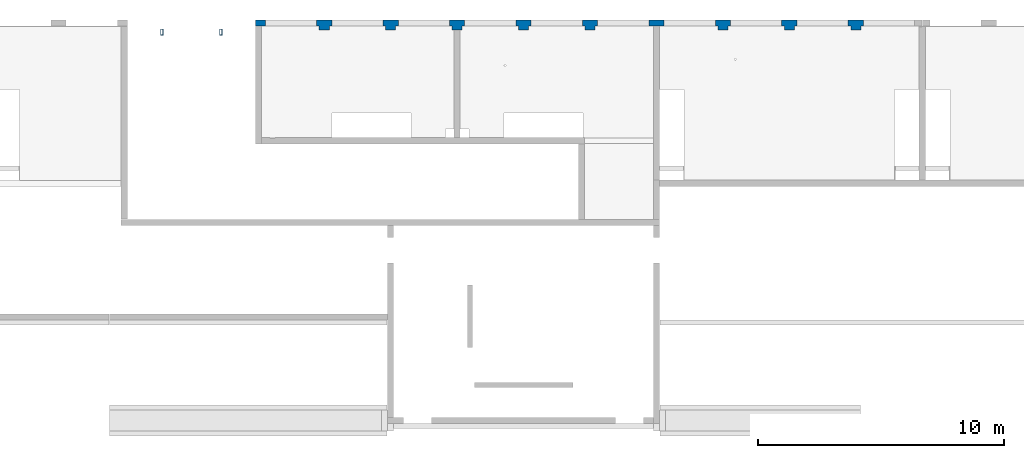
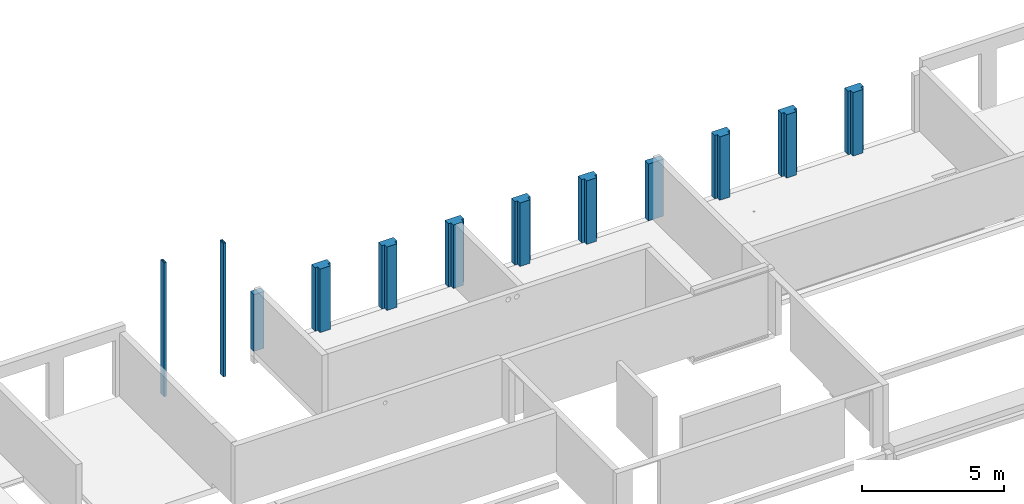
# One storey, part 1 of 18: 12 columns.
"""IFC2X3 building model written with IfcOpenShell, lengths in millimetres."""

from ifc_helpers import new_model, entity, si_unit, converted_unit, derived_unit, direction, frame, frame_2d, origin, origin_2d_with_axis, place, context, subcontext, project, spatial, polyline, circle_curve, parameter, trimmed, segment, composite_curve, rectangle, outline, extrude, source, transform, mapped, material, type_object, type_shapes, element, save


model = new_model("IFC2X3")

# Units and contexts
model_context = context("Model", 3, precision=0.01, world=origin(), true_north=direction((6.12303176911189e-17, 1.0)))
body_context = subcontext(model_context, "Body", "Model", "MODEL_VIEW")
ifc_project = project(units=[si_unit("LENGTHUNIT", "METRE", prefix="MILLI"), si_unit("AREAUNIT", "SQUARE_METRE"), si_unit("VOLUMEUNIT", "CUBIC_METRE"), converted_unit("PLANEANGLEUNIT", "DEGREE", entity("IfcRatioMeasure", 0.0174532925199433), si_unit("PLANEANGLEUNIT", "RADIAN"), dimensions=[0, 0, 0, 0, 0, 0, 0]), si_unit("MASSUNIT", "GRAM", prefix="KILO"), derived_unit("MASSDENSITYUNIT", [(si_unit("MASSUNIT", "GRAM", prefix="KILO"), 1), (si_unit("LENGTHUNIT", "METRE"), -3)]), si_unit("TIMEUNIT", "SECOND"), si_unit("FREQUENCYUNIT", "HERTZ"), si_unit("THERMODYNAMICTEMPERATUREUNIT", "DEGREE_CELSIUS"), derived_unit("THERMALTRANSMITTANCEUNIT", [(si_unit("MASSUNIT", "GRAM", prefix="KILO"), 1), (si_unit("THERMODYNAMICTEMPERATUREUNIT", "KELVIN"), -1), (si_unit("TIMEUNIT", "SECOND"), -3)]), derived_unit("VOLUMETRICFLOWRATEUNIT", [(si_unit("LENGTHUNIT", "METRE"), 3), (si_unit("TIMEUNIT", "SECOND"), -1)]), si_unit("ELECTRICCURRENTUNIT", "AMPERE"), si_unit("ELECTRICVOLTAGEUNIT", "VOLT"), si_unit("POWERUNIT", "WATT"), si_unit("FORCEUNIT", "NEWTON", prefix="KILO"), si_unit("ILLUMINANCEUNIT", "LUX"), si_unit("LUMINOUSFLUXUNIT", "LUMEN"), si_unit("LUMINOUSINTENSITYUNIT", "CANDELA"), derived_unit("USERDEFINED", [(si_unit("MASSUNIT", "GRAM", prefix="KILO"), -1), (si_unit("LENGTHUNIT", "METRE"), -2), (si_unit("TIMEUNIT", "SECOND"), 3), (si_unit("LUMINOUSFLUXUNIT", "LUMEN"), 1)]), derived_unit("LINEARVELOCITYUNIT", [(si_unit("LENGTHUNIT", "METRE"), 1), (si_unit("TIMEUNIT", "SECOND"), -1)]), si_unit("PRESSUREUNIT", "PASCAL"), derived_unit("USERDEFINED", [(si_unit("LENGTHUNIT", "METRE"), -2), (si_unit("MASSUNIT", "GRAM", prefix="KILO"), 1), (si_unit("TIMEUNIT", "SECOND"), -2)])], contexts=[model_context])

# Site, building, storey
site_placement = place(None, origin())
site = spatial("IfcSite", under=ifc_project, at=site_placement, Name="Default", CompositionType="ELEMENT")
building_placement = place(site_placement, origin())
building = spatial("IfcBuilding", under=site, at=building_placement, Name="niet gebruiken", CompositionType="ELEMENT")
storey_placement = place(building_placement, frame((0.0, 0.0, 3690.0)))
storey = spatial("IfcBuildingStorey", under=building, at=storey_placement, Name="01 eerste verdieping", CompositionType="ELEMENT", Elevation=3690.00000000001)

# Columns
ifc_material_1 = material(Name="NLRS_f2_beton ihwg")
column_type_1 = type_object("IfcColumnType", Name="620x410/105x160/105x160", PredefinedType="COLUMN", material=ifc_material_1)
shared_shape_1 = source(origin(), body_context, "Body", "SweptSolid", [
    extrude(outline(polyline([(-227.499999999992, -310.0), (22.5000000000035, -310.0), (22.5000000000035, -205.0), (182.500000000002, -205.0), (182.500000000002, 205.0), (22.5000000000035, 205.0), (22.5000000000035, 310.0), (-227.499999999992, 310.0), (-227.499999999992, -310.0)])), frame((54000.0, 53028.5, 3600.0), z_axis=(0.0, 0.0, 1.0), x_axis=(0.0, -1.0, 0.0)), (0.0, 0.0, 1.0), 2720.0),
])
type_shapes(column_type_1, [shared_shape_1])
column_1_placement = place(storey_placement, frame((0.0, 0.0, -3690.0)))
element("IfcColumn", 1, at=column_1_placement, inside=storey, type_object=column_type_1, material=ifc_material_1, Name="NLRS_28.11_SCO_TLB_beton kolom ihwg dubbele sponning_gen:620x410/105x160/105x160", ObjectType="620x410/105x160/105x160", context=body_context, shape_type="MappedRepresentation", body=[
    mapped(shared_shape_1, transform((0.0, 0.0, 0.0), scale=1.0)),
])
column_type_2 = type_object("IfcColumnType", Name="620x410/105x160/105x160", PredefinedType="COLUMN", material=ifc_material_1)
shared_shape_2 = source(origin(), body_context, "Body", "SweptSolid", [
    extrude(outline(polyline([(-227.499999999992, -310.0), (22.5000000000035, -310.0), (22.5000000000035, -205.0), (182.500000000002, -205.0), (182.500000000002, 205.0), (22.5000000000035, 205.0), (22.5000000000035, 310.0), (-227.499999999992, 310.0), (-227.499999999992, -310.0)])), frame((51300.0, 53028.5, 3600.0), z_axis=(0.0, 0.0, 1.0), x_axis=(0.0, -1.0, 0.0)), (0.0, 0.0, 1.0), 2720.0),
])
type_shapes(column_type_2, [shared_shape_2])
column_2_placement = place(storey_placement, frame((0.0, 0.0, -3690.0)))
element("IfcColumn", 2, at=column_2_placement, inside=storey, type_object=column_type_2, material=ifc_material_1, Name="NLRS_28.11_SCO_TLB_beton kolom ihwg dubbele sponning_gen:620x410/105x160/105x160", ObjectType="620x410/105x160/105x160", context=body_context, shape_type="MappedRepresentation", body=[
    mapped(shared_shape_2, transform((0.0, 0.0, 0.0), scale=1.0)),
])
column_type_3 = type_object("IfcColumnType", Name="620x410/105x160/105x160", PredefinedType="COLUMN", material=ifc_material_1)
shared_shape_3 = source(origin(), body_context, "Body", "SweptSolid", [
    extrude(outline(polyline([(-227.499999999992, -310.0), (22.5000000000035, -310.0), (22.5000000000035, -205.0), (182.500000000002, -205.0), (182.500000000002, 205.0), (22.5000000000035, 205.0), (22.5000000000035, 310.0), (-227.499999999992, 310.0), (-227.499999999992, -310.0)])), frame((45900.0, 53028.5, 3600.0), z_axis=(0.0, 0.0, 1.0), x_axis=(0.0, -1.0, 0.0)), (0.0, 0.0, 1.0), 2720.0),
])
type_shapes(column_type_3, [shared_shape_3])
column_3_placement = place(storey_placement, frame((0.0, 0.0, -3690.0)))
element("IfcColumn", 3, at=column_3_placement, inside=storey, type_object=column_type_3, material=ifc_material_1, Name="NLRS_28.11_SCO_TLB_beton kolom ihwg dubbele sponning_gen:620x410/105x160/105x160", ObjectType="620x410/105x160/105x160", context=body_context, shape_type="MappedRepresentation", body=[
    mapped(shared_shape_3, transform((0.0, 0.0, 0.0), scale=1.0)),
])
column_type_4 = type_object("IfcColumnType", Name="620x410/105x160/105x160", PredefinedType="COLUMN", material=ifc_material_1)
shared_shape_4 = source(origin(), body_context, "Body", "SweptSolid", [
    extrude(outline(polyline([(-227.499999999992, -310.0), (22.5000000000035, -310.0), (22.5000000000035, -205.0), (182.500000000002, -205.0), (182.500000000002, 205.0), (22.5000000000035, 205.0), (22.5000000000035, 310.0), (-227.499999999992, 310.0), (-227.499999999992, -310.0)])), frame((43200.0, 53028.5, 3600.0), z_axis=(0.0, 0.0, 1.0), x_axis=(0.0, -1.0, 0.0)), (0.0, 0.0, 1.0), 2720.0),
])
type_shapes(column_type_4, [shared_shape_4])
column_4_placement = place(storey_placement, frame((0.0, 0.0, -3690.0)))
element("IfcColumn", 4, at=column_4_placement, inside=storey, type_object=column_type_4, material=ifc_material_1, Name="NLRS_28.11_SCO_TLB_beton kolom ihwg dubbele sponning_gen:620x410/105x160/105x160", ObjectType="620x410/105x160/105x160", context=body_context, shape_type="MappedRepresentation", body=[
    mapped(shared_shape_4, transform((0.0, 0.0, 0.0), scale=1.0)),
])
column_type_5 = type_object("IfcColumnType", Name="620x410/105x160/105x160", PredefinedType="COLUMN", material=ifc_material_1)
shared_shape_5 = source(origin(), body_context, "Body", "SweptSolid", [
    extrude(outline(polyline([(-227.499999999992, -310.0), (22.5000000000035, -310.0), (22.5000000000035, -205.0), (182.500000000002, -205.0), (182.500000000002, 205.0), (22.5000000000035, 205.0), (22.5000000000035, 310.0), (-227.499999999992, 310.0), (-227.499999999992, -310.0)])), frame((40500.0, 53028.5, 3600.0), z_axis=(0.0, 0.0, 1.0), x_axis=(0.0, -1.0, 0.0)), (0.0, 0.0, 1.0), 2720.0),
])
type_shapes(column_type_5, [shared_shape_5])
column_5_placement = place(storey_placement, frame((0.0, 0.0, -3690.0)))
element("IfcColumn", 5, at=column_5_placement, inside=storey, type_object=column_type_5, material=ifc_material_1, Name="NLRS_28.11_SCO_TLB_beton kolom ihwg dubbele sponning_gen:620x410/105x160/105x160", ObjectType="620x410/105x160/105x160", context=body_context, shape_type="MappedRepresentation", body=[
    mapped(shared_shape_5, transform((0.0, 0.0, 0.0), scale=1.0)),
])
column_type_6 = type_object("IfcColumnType", Name="620x410/105x160/105x160", PredefinedType="COLUMN", material=ifc_material_1)
shared_shape_6 = source(origin(), body_context, "Body", "SweptSolid", [
    extrude(outline(polyline([(-227.5, -310.0), (22.4999999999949, -310.0), (22.4999999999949, -205.0), (182.499999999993, -205.0), (182.499999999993, 205.0), (22.4999999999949, 205.0), (22.4999999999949, 310.0), (-227.5, 310.0), (-227.5, -310.0)])), frame((37800.0, 53028.5, 3600.0), z_axis=(0.0, 0.0, 1.0), x_axis=(0.0, -1.0, 0.0)), (0.0, 0.0, 1.0), 2720.0),
])
type_shapes(column_type_6, [shared_shape_6])
column_6_placement = place(storey_placement, frame((0.0, 0.0, -3690.0)))
element("IfcColumn", 6, at=column_6_placement, inside=storey, type_object=column_type_6, material=ifc_material_1, Name="NLRS_28.11_SCO_TLB_beton kolom ihwg dubbele sponning_gen:620x410/105x160/105x160", ObjectType="620x410/105x160/105x160", context=body_context, shape_type="MappedRepresentation", body=[
    mapped(shared_shape_6, transform((0.0, 0.0, 0.0), scale=1.0)),
])
column_type_7 = type_object("IfcColumnType", Name="620x410/105x160/105x160", PredefinedType="COLUMN", material=ifc_material_1)
shared_shape_7 = source(origin(), body_context, "Body", "SweptSolid", [
    extrude(outline(polyline([(-227.5, -310.0), (22.4999999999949, -310.0), (22.4999999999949, -205.0), (182.499999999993, -205.0), (182.499999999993, 205.0), (22.4999999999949, 205.0), (22.4999999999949, 310.0), (-227.5, 310.0), (-227.5, -310.0)])), frame((35100.0, 53028.5, 3600.0), z_axis=(0.0, 0.0, 1.0), x_axis=(0.0, -1.0, 0.0)), (0.0, 0.0, 1.0), 2720.0),
])
type_shapes(column_type_7, [shared_shape_7])
column_7_placement = place(storey_placement, frame((0.0, 0.0, -3690.0)))
element("IfcColumn", 7, at=column_7_placement, inside=storey, type_object=column_type_7, material=ifc_material_1, Name="NLRS_28.11_SCO_TLB_beton kolom ihwg dubbele sponning_gen:620x410/105x160/105x160", ObjectType="620x410/105x160/105x160", context=body_context, shape_type="MappedRepresentation", body=[
    mapped(shared_shape_7, transform((0.0, 0.0, 0.0), scale=1.0)),
])
column_type_8 = type_object("IfcColumnType", Name="410x250", PredefinedType="COLUMN", material=ifc_material_1)
shared_shape_8 = source(origin(), body_context, "Body", "SweptSolid", [
    extrude(rectangle(XDim=250.000000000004, YDim=410.000000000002, at=origin_2d_with_axis()), frame((32505.0, 53131.0, 3600.0), z_axis=(0.0, 0.0, 1.0), x_axis=(0.0, -1.0, 0.0)), (0.0, 0.0, 1.0), 2440.0),
])
type_shapes(column_type_8, [shared_shape_8])
column_8_placement = place(storey_placement, frame((0.0, 0.0, -3690.0)))
element("IfcColumn", 8, at=column_8_placement, inside=storey, type_object=column_type_8, material=ifc_material_1, Name="NLRS_28.11_SCO_TLB_beton kolom ihwg_gen:410x250", ObjectType="410x250", context=body_context, shape_type="MappedRepresentation", body=[
    mapped(shared_shape_8, transform((0.0, 0.0, 0.0), scale=1.0)),
])
column_type_9 = type_object("IfcColumnType", Name="620x250", PredefinedType="COLUMN", material=ifc_material_1)
shared_shape_9 = source(origin(), body_context, "Body", "SweptSolid", [
    extrude(rectangle(XDim=250.000000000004, YDim=619.999999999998, at=origin_2d_with_axis()), frame((48600.0, 53131.0, 3600.0), z_axis=(0.0, 0.0, 1.0), x_axis=(0.0, -1.0, 0.0)), (0.0, 0.0, 1.0), 2440.0),
])
type_shapes(column_type_9, [shared_shape_9])
column_9_placement = place(storey_placement, frame((0.0, 0.0, -3690.0)))
element("IfcColumn", 9, at=column_9_placement, inside=storey, type_object=column_type_9, material=ifc_material_1, Name="NLRS_28.11_SCO_TLB_beton kolom ihwg_gen:620x250", ObjectType="620x250", context=body_context, shape_type="MappedRepresentation", body=[
    mapped(shared_shape_9, transform((0.0, 0.0, 0.0), scale=1.0)),
])
column_type_10 = type_object("IfcColumnType", Name="620x410/105x160/105x160", PredefinedType="COLUMN", material=ifc_material_1)
shared_shape_10 = source(origin(), body_context, "Body", "SweptSolid", [
    extrude(outline(polyline([(-227.5, -310.0), (22.4999999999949, -310.0), (22.4999999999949, -205.0), (182.499999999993, -205.0), (182.499999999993, 205.0), (22.4999999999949, 205.0), (22.4999999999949, 310.0), (-227.5, 310.0), (-227.5, -310.0)])), frame((56700.0, 53028.5, 3600.0), z_axis=(0.0, 0.0, 1.0), x_axis=(0.0, -1.0, 0.0)), (0.0, 0.0, 1.0), 2720.0),
])
type_shapes(column_type_10, [shared_shape_10])
column_10_placement = place(storey_placement, frame((0.0, 0.0, -3690.0)))
element("IfcColumn", 10, at=column_10_placement, inside=storey, type_object=column_type_10, material=ifc_material_1, Name="NLRS_28.11_SCO_TLB_beton kolom ihwg dubbele sponning_gen:620x410/105x160/105x160", ObjectType="620x410/105x160/105x160", context=body_context, shape_type="MappedRepresentation", body=[
    mapped(shared_shape_10, transform((0.0, 0.0, 0.0), scale=1.0)),
])
ifc_material_2 = material(Name="NLRS_h2_staal")
column_type_11 = type_object("IfcColumnType", Name="kolom buisprofiel warmgevormd vierkant SHSH_250x100x10", PredefinedType="COLUMN", material=ifc_material_2)
shared_shape_11 = source(origin(), body_context, "Body", "SweptSolid", [
    extrude(outline(polyline([(-125.0, -50.0), (125.0, -50.0), (125.0, 50.0), (-125.0, 50.0), (-125.0, -50.0)]), holes=[composite_curve([segment(trimmed(circle_curve(frame_2d((-105.0, -30.0), x_axis=(0.0, 1.0)), 10.0), [parameter(90.0)], [parameter(180.0)], True, "PARAMETER"), False, "CONTINUOUS"), segment(polyline([(-115.0, -30.0), (-115.0, 30.0)]), True, "CONTINUOUS"), segment(trimmed(circle_curve(frame_2d((-105.0, 30.0), x_axis=(0.0, 1.0)), 10.0), [parameter(360.0)], [parameter(90.0)], True, "PARAMETER"), False, "CONTINUOUS"), segment(polyline([(-105.0, 40.0), (105.0, 40.0)]), True, "CONTINUOUS"), segment(trimmed(circle_curve(frame_2d((105.0, 30.0), x_axis=(0.0, 1.0)), 10.0), [parameter(270.0)], [parameter(360.0)], True, "PARAMETER"), False, "CONTINUOUS"), segment(polyline([(115.0, 30.0), (115.0, -30.0)]), True, "CONTINUOUS"), segment(trimmed(circle_curve(frame_2d((105.0, -30.0), x_axis=(0.0, 1.0)), 10.0), [parameter(180.0)], [parameter(270.0)], True, "PARAMETER"), False, "CONTINUOUS"), segment(polyline([(105.0, -40.0), (-105.0, -40.0)]), True, "CONTINUOUS")], self_intersect=False)]), frame((0.0, 0.0, 3235.0), z_axis=(0.0, 0.0, 1.0), x_axis=(0.0, -1.0, 0.0)), (0.0, 0.0, 1.0), 5729.99999999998),
])
type_shapes(column_type_11, [shared_shape_11])
for number, where, z_axis, x_axis, name in (
    (11, (28500.0, 52764.5000000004, -3690.0), (0.0, 0.0, 1.0), (-1.0, 0.0, 0.0), "NLRS_28.11_SCO_TLB_stalen kolom buisprofiel warmgevormd vierkant_gen:kolom buisprofiel warmgevormd vierkant SHSH_250x100x10"),
    (12, (30900.0, 52764.5000000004, -3690.0), (0.0, 0.0, 1.0), (-1.0, 0.0, 0.0), "NLRS_28.11_SCO_TLB_stalen kolom buisprofiel warmgevormd vierkant_gen:kolom buisprofiel warmgevormd vierkant SHSH_250x100x10"),
):
    element("IfcColumn", number, at=place(storey_placement, frame(where, z_axis=z_axis, x_axis=x_axis)), inside=storey, type_object=column_type_11, material=ifc_material_2, Name=name, ObjectType="kolom buisprofiel warmgevormd vierkant SHSH_250x100x10", context=body_context, shape_type="MappedRepresentation", body=[
        mapped(shared_shape_11, transform((0.0, 0.0, 0.0), scale=1.0)),
    ])

save(model, "model.ifc")
